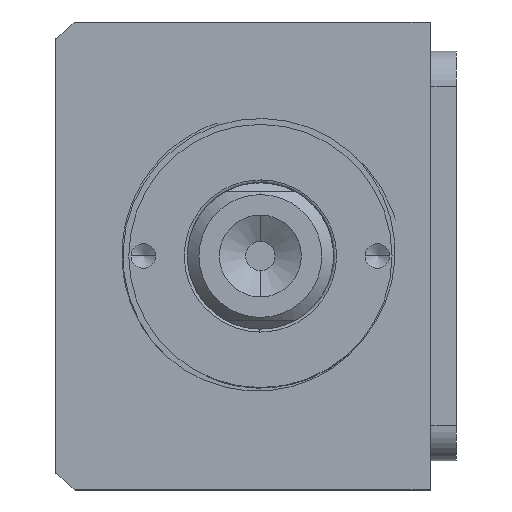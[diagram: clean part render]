
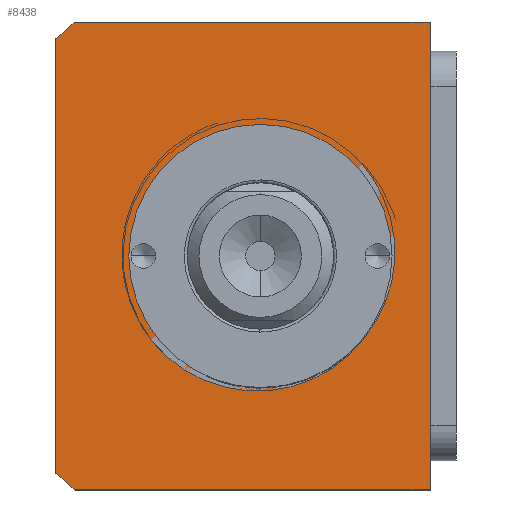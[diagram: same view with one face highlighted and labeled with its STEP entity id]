
A CAD part, front view. The second image highlights one B-rep face of the part: STEP entity #8438.
In plain terms, the highlighted planar face has unit normal (0, -1, 0) as drawn and (0, 0, 1) by its records, which use the part's own axes.
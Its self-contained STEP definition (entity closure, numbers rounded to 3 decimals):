
#15 = ORIENTED_EDGE ( 'NONE', *, *, #2660, .T. ) ;
#226 = VECTOR ( 'NONE', #5208, 1000. ) ;
#466 = DIRECTION ( 'NONE',  ( 0., 0., 1. ) ) ;
#732 = CARTESIAN_POINT ( 'NONE',  ( -40., 32., 95. ) ) ;
#792 = CIRCLE ( 'NONE', #9429, 51. ) ;
#833 = EDGE_CURVE ( 'NONE', #5822, #7912, #7130, .T. ) ;
#896 = DIRECTION ( 'NONE',  ( 0., 0., 1. ) ) ;
#956 = ORIENTED_EDGE ( 'NONE', *, *, #1813, .T. ) ;
#1307 = EDGE_CURVE ( 'NONE', #10026, #3336, #9623, .T. ) ;
#1343 = AXIS2_PLACEMENT_3D ( 'NONE', #7483, #2705, #8289 ) ;
#1351 = CIRCLE ( 'NONE', #9505, 22.5 ) ;
#1519 = AXIS2_PLACEMENT_3D ( 'NONE', #5594, #7965, #7187 ) ;
#1527 = VECTOR ( 'NONE', #1961, 1000. ) ;
#1593 = CARTESIAN_POINT ( 'NONE',  ( -22.5, 3., 95. ) ) ;
#1610 = VERTEX_POINT ( 'NONE', #8588 ) ;
#1623 = PLANE ( 'NONE',  #1519 ) ;
#1744 = ORIENTED_EDGE ( 'NONE', *, *, #4310, .T. ) ;
#1813 = EDGE_CURVE ( 'NONE', #1610, #10248, #3630, .T. ) ;
#1875 = CARTESIAN_POINT ( 'NONE',  ( 40., 32., 95. ) ) ;
#1961 = DIRECTION ( 'NONE',  ( 0., 1., 0. ) ) ;
#2487 = DIRECTION ( 'NONE',  ( 0., 0., 1. ) ) ;
#2660 = EDGE_CURVE ( 'NONE', #7912, #9713, #792, .T. ) ;
#2705 = DIRECTION ( 'NONE',  ( 0., 0., 1. ) ) ;
#3001 = CARTESIAN_POINT ( 'NONE',  ( -40., 32., 95. ) ) ;
#3336 = VERTEX_POINT ( 'NONE', #1593 ) ;
#3554 = EDGE_CURVE ( 'NONE', #9152, #1610, #7355, .T. ) ;
#3630 = LINE ( 'NONE', #5151, #1527 ) ;
#3859 = EDGE_LOOP ( 'NONE', ( #4549, #4528 ) ) ;
#4279 = CARTESIAN_POINT ( 'NONE',  ( -40., 32., 95. ) ) ;
#4281 = EDGE_LOOP ( 'NONE', ( #9869, #15, #1744, #5998, #956, #5671 ) ) ;
#4310 = EDGE_CURVE ( 'NONE', #9713, #9152, #7084, .T. ) ;
#4528 = ORIENTED_EDGE ( 'NONE', *, *, #4665, .F. ) ;
#4549 = ORIENTED_EDGE ( 'NONE', *, *, #1307, .F. ) ;
#4665 = EDGE_CURVE ( 'NONE', #3336, #10026, #1351, .T. ) ;
#4704 = CARTESIAN_POINT ( 'NONE',  ( 37.094, -32., 95. ) ) ;
#5151 = CARTESIAN_POINT ( 'NONE',  ( 40., 32., 95. ) ) ;
#5208 = DIRECTION ( 'NONE',  ( 1., 0., 0. ) ) ;
#5235 = CARTESIAN_POINT ( 'NONE',  ( 0., 3., 95. ) ) ;
#5278 = VECTOR ( 'NONE', #6297, 1000. ) ;
#5518 = EDGE_CURVE ( 'NONE', #10248, #5822, #7789, .T. ) ;
#5594 = CARTESIAN_POINT ( 'NONE',  ( 0., 0., 95. ) ) ;
#5640 = VECTOR ( 'NONE', #9042, 1000. ) ;
#5643 = AXIS2_PLACEMENT_3D ( 'NONE', #5235, #466, #6026 ) ;
#5660 = CARTESIAN_POINT ( 'NONE',  ( 0., 3., 95. ) ) ;
#5671 = ORIENTED_EDGE ( 'NONE', *, *, #5518, .T. ) ;
#5822 = VERTEX_POINT ( 'NONE', #3001 ) ;
#5980 = CARTESIAN_POINT ( 'NONE',  ( -37.094, -32., 95. ) ) ;
#5998 = ORIENTED_EDGE ( 'NONE', *, *, #3554, .T. ) ;
#6026 = DIRECTION ( 'NONE',  ( 1., 0., 0. ) ) ;
#6088 = FACE_OUTER_BOUND ( 'NONE', #4281, .T. ) ;
#6297 = DIRECTION ( 'NONE',  ( 0., -1., 0. ) ) ;
#6463 = DIRECTION ( 'NONE',  ( 1., 0., 0. ) ) ;
#7084 = LINE ( 'NONE', #7521, #226 ) ;
#7130 = LINE ( 'NONE', #732, #5278 ) ;
#7187 = DIRECTION ( 'NONE',  ( 1., 0., 0. ) ) ;
#7248 = CARTESIAN_POINT ( 'NONE',  ( 22.5, 3., 95. ) ) ;
#7264 = CARTESIAN_POINT ( 'NONE',  ( 0., 3., 95. ) ) ;
#7355 = CIRCLE ( 'NONE', #1343, 51. ) ;
#7483 = CARTESIAN_POINT ( 'NONE',  ( 0., 3., 95. ) ) ;
#7521 = CARTESIAN_POINT ( 'NONE',  ( -40., -32., 95. ) ) ;
#7610 = CARTESIAN_POINT ( 'NONE',  ( -40., -28.639, 95. ) ) ;
#7789 = LINE ( 'NONE', #4279, #5640 ) ;
#7912 = VERTEX_POINT ( 'NONE', #7610 ) ;
#7965 = DIRECTION ( 'NONE',  ( 0., 0., 1. ) ) ;
#8066 = DIRECTION ( 'NONE',  ( 1., 0., 0. ) ) ;
#8181 = FACE_BOUND ( 'NONE', #3859, .T. ) ;
#8289 = DIRECTION ( 'NONE',  ( 1., 0., 0. ) ) ;
#8438 = ADVANCED_FACE ( 'NONE', ( #8181, #6088 ), #1623, .T. ) ;
#8588 = CARTESIAN_POINT ( 'NONE',  ( 40., -28.639, 95. ) ) ;
#9042 = DIRECTION ( 'NONE',  ( -1., 0., 0. ) ) ;
#9152 = VERTEX_POINT ( 'NONE', #4704 ) ;
#9429 = AXIS2_PLACEMENT_3D ( 'NONE', #5660, #896, #6463 ) ;
#9505 = AXIS2_PLACEMENT_3D ( 'NONE', #7264, #2487, #8066 ) ;
#9623 = CIRCLE ( 'NONE', #5643, 22.5 ) ;
#9713 = VERTEX_POINT ( 'NONE', #5980 ) ;
#9869 = ORIENTED_EDGE ( 'NONE', *, *, #833, .T. ) ;
#10026 = VERTEX_POINT ( 'NONE', #7248 ) ;
#10248 = VERTEX_POINT ( 'NONE', #1875 ) ;
